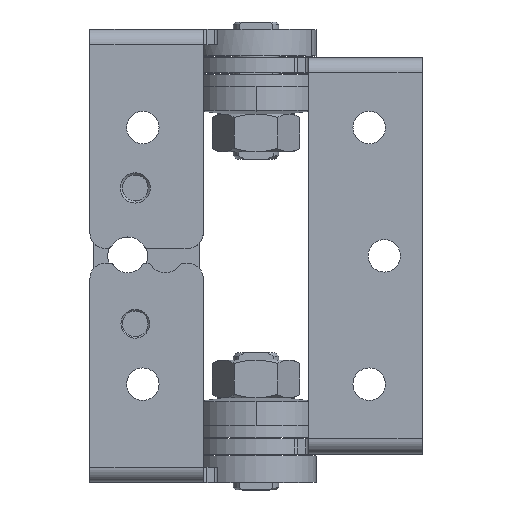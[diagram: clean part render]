
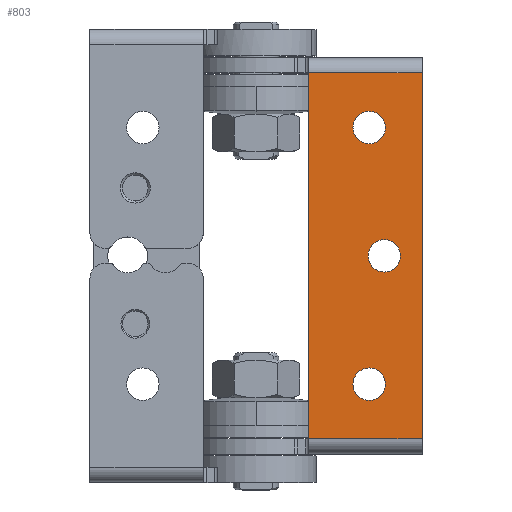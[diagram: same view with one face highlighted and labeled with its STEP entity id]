
A CAD part, top view. The second image highlights one B-rep face of the part: STEP entity #803.
In plain terms, the highlighted planar face has unit normal (0, 0, 1) as drawn and (0, -1, 0) by its records, which use the part's own axes.
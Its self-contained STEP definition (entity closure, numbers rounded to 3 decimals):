
#167 = VERTEX_POINT ( 'NONE', #3673 ) ;
#184 = DIRECTION ( 'NONE',  ( 0., 1., 0. ) ) ;
#477 = CARTESIAN_POINT ( 'NONE',  ( -17., -10., 28.4 ) ) ;
#537 = CARTESIAN_POINT ( 'NONE',  ( -7., -10., 50.5 ) ) ;
#656 = DIRECTION ( 'NONE',  ( 0., 0., -1. ) ) ;
#728 = CIRCLE ( 'NONE', #16237, 2.15 ) ;
#754 = DIRECTION ( 'NONE',  ( 0., 1., 0. ) ) ;
#787 = AXIS2_PLACEMENT_3D ( 'NONE', #11226, #3433, #12548 ) ;
#799 = CARTESIAN_POINT ( 'NONE',  ( -22., -10., 50.5 ) ) ;
#803 = ADVANCED_FACE ( 'NONE', ( #16447, #9532, #16044, #12571 ), #890, .T. ) ;
#890 = PLANE ( 'NONE',  #6417 ) ;
#1112 = CARTESIAN_POINT ( 'NONE',  ( -22., -10., 2. ) ) ;
#1352 = CARTESIAN_POINT ( 'NONE',  ( -15., -10., 7.1 ) ) ;
#1526 = VECTOR ( 'NONE', #7352, 1000. ) ;
#1720 = EDGE_CURVE ( 'NONE', #4636, #167, #728, .T. ) ;
#1725 = CIRCLE ( 'NONE', #5580, 2.15 ) ;
#1908 = ORIENTED_EDGE ( 'NONE', *, *, #7670, .T. ) ;
#1989 = VERTEX_POINT ( 'NONE', #4101 ) ;
#2061 = DIRECTION ( 'NONE',  ( -1., 0., 0. ) ) ;
#2251 = DIRECTION ( 'NONE',  ( 0., 0., -1. ) ) ;
#2370 = DIRECTION ( 'NONE',  ( 0., 1., 0. ) ) ;
#2422 = DIRECTION ( 'NONE',  ( 1., 0., 0. ) ) ;
#2692 = VERTEX_POINT ( 'NONE', #11128 ) ;
#2830 = LINE ( 'NONE', #1112, #15864 ) ;
#3101 = ORIENTED_EDGE ( 'NONE', *, *, #9976, .T. ) ;
#3135 = EDGE_CURVE ( 'NONE', #1989, #13497, #1725, .T. ) ;
#3333 = VECTOR ( 'NONE', #5875, 1000. ) ;
#3370 = CARTESIAN_POINT ( 'NONE',  ( -17., -10., 24.1 ) ) ;
#3433 = DIRECTION ( 'NONE',  ( 0., 1., 0. ) ) ;
#3547 = EDGE_LOOP ( 'NONE', ( #11179, #14007 ) ) ;
#3673 = CARTESIAN_POINT ( 'NONE',  ( -15., -10., 11.4 ) ) ;
#4101 = CARTESIAN_POINT ( 'NONE',  ( -15., -10., 45.4 ) ) ;
#4276 = ORIENTED_EDGE ( 'NONE', *, *, #7395, .T. ) ;
#4379 = LINE ( 'NONE', #799, #11283 ) ;
#4636 = VERTEX_POINT ( 'NONE', #1352 ) ;
#5240 = AXIS2_PLACEMENT_3D ( 'NONE', #8572, #754, #9872 ) ;
#5407 = EDGE_CURVE ( 'NONE', #2692, #7012, #2830, .T. ) ;
#5580 = AXIS2_PLACEMENT_3D ( 'NONE', #7979, #184, #9298 ) ;
#5600 = CARTESIAN_POINT ( 'NONE',  ( -7., -10., 0. ) ) ;
#5875 = DIRECTION ( 'NONE',  ( 0., 0., 1. ) ) ;
#6093 = VERTEX_POINT ( 'NONE', #537 ) ;
#6417 = AXIS2_PLACEMENT_3D ( 'NONE', #16548, #10063, #2251 ) ;
#6688 = CARTESIAN_POINT ( 'NONE',  ( -15., -10., 9.25 ) ) ;
#6842 = CARTESIAN_POINT ( 'NONE',  ( -15., -10., 41.1 ) ) ;
#7012 = VERTEX_POINT ( 'NONE', #8126 ) ;
#7124 = VERTEX_POINT ( 'NONE', #12423 ) ;
#7138 = EDGE_CURVE ( 'NONE', #14898, #15298, #8483, .T. ) ;
#7352 = DIRECTION ( 'NONE',  ( 0., 0., -1. ) ) ;
#7395 = EDGE_CURVE ( 'NONE', #167, #4636, #11712, .T. ) ;
#7670 = EDGE_CURVE ( 'NONE', #7124, #2692, #8054, .T. ) ;
#7979 = CARTESIAN_POINT ( 'NONE',  ( -15., -10., 43.25 ) ) ;
#7987 = DIRECTION ( 'NONE',  ( 0., 0., -1. ) ) ;
#8054 = LINE ( 'NONE', #11387, #1526 ) ;
#8126 = CARTESIAN_POINT ( 'NONE',  ( -7., -10., 2. ) ) ;
#8469 = DIRECTION ( 'NONE',  ( 0., 1., 0. ) ) ;
#8483 = CIRCLE ( 'NONE', #5240, 2.15 ) ;
#8572 = CARTESIAN_POINT ( 'NONE',  ( -17., -10., 26.25 ) ) ;
#8608 = ORIENTED_EDGE ( 'NONE', *, *, #5407, .T. ) ;
#8718 = AXIS2_PLACEMENT_3D ( 'NONE', #16257, #8469, #656 ) ;
#9286 = AXIS2_PLACEMENT_3D ( 'NONE', #6688, #15792, #7987 ) ;
#9298 = DIRECTION ( 'NONE',  ( 0., 0., -1. ) ) ;
#9360 = EDGE_LOOP ( 'NONE', ( #3101, #13271 ) ) ;
#9532 = FACE_BOUND ( 'NONE', #10224, .T. ) ;
#9858 = CIRCLE ( 'NONE', #787, 2.15 ) ;
#9872 = DIRECTION ( 'NONE',  ( 0., 0., -1. ) ) ;
#9976 = EDGE_CURVE ( 'NONE', #13497, #1989, #9858, .T. ) ;
#10023 = ORIENTED_EDGE ( 'NONE', *, *, #13166, .T. ) ;
#10063 = DIRECTION ( 'NONE',  ( 0., -1., 0. ) ) ;
#10188 = CARTESIAN_POINT ( 'NONE',  ( -15., -10., 9.25 ) ) ;
#10224 = EDGE_LOOP ( 'NONE', ( #10558, #4276 ) ) ;
#10558 = ORIENTED_EDGE ( 'NONE', *, *, #1720, .T. ) ;
#11128 = CARTESIAN_POINT ( 'NONE',  ( -22., -10., 2. ) ) ;
#11179 = ORIENTED_EDGE ( 'NONE', *, *, #7138, .T. ) ;
#11226 = CARTESIAN_POINT ( 'NONE',  ( -15., -10., 43.25 ) ) ;
#11283 = VECTOR ( 'NONE', #2061, 1000. ) ;
#11387 = CARTESIAN_POINT ( 'NONE',  ( -22., -10., 0. ) ) ;
#11480 = DIRECTION ( 'NONE',  ( 0., 0., -1. ) ) ;
#11712 = CIRCLE ( 'NONE', #9286, 2.15 ) ;
#12423 = CARTESIAN_POINT ( 'NONE',  ( -22., -10., 50.5 ) ) ;
#12548 = DIRECTION ( 'NONE',  ( 0., 0., -1. ) ) ;
#12571 = FACE_OUTER_BOUND ( 'NONE', #16325, .T. ) ;
#12719 = EDGE_CURVE ( 'NONE', #6093, #7124, #4379, .T. ) ;
#13166 = EDGE_CURVE ( 'NONE', #7012, #6093, #13334, .T. ) ;
#13271 = ORIENTED_EDGE ( 'NONE', *, *, #3135, .T. ) ;
#13334 = LINE ( 'NONE', #5600, #3333 ) ;
#13497 = VERTEX_POINT ( 'NONE', #6842 ) ;
#14007 = ORIENTED_EDGE ( 'NONE', *, *, #14257, .T. ) ;
#14257 = EDGE_CURVE ( 'NONE', #15298, #14898, #15527, .T. ) ;
#14898 = VERTEX_POINT ( 'NONE', #3370 ) ;
#15298 = VERTEX_POINT ( 'NONE', #477 ) ;
#15527 = CIRCLE ( 'NONE', #8718, 2.15 ) ;
#15792 = DIRECTION ( 'NONE',  ( 0., 1., 0. ) ) ;
#15864 = VECTOR ( 'NONE', #2422, 1000. ) ;
#16044 = FACE_BOUND ( 'NONE', #9360, .T. ) ;
#16237 = AXIS2_PLACEMENT_3D ( 'NONE', #10188, #2370, #11480 ) ;
#16257 = CARTESIAN_POINT ( 'NONE',  ( -17., -10., 26.25 ) ) ;
#16325 = EDGE_LOOP ( 'NONE', ( #8608, #10023, #16541, #1908 ) ) ;
#16447 = FACE_BOUND ( 'NONE', #3547, .T. ) ;
#16541 = ORIENTED_EDGE ( 'NONE', *, *, #12719, .T. ) ;
#16548 = CARTESIAN_POINT ( 'NONE',  ( -22., -10., 0. ) ) ;
